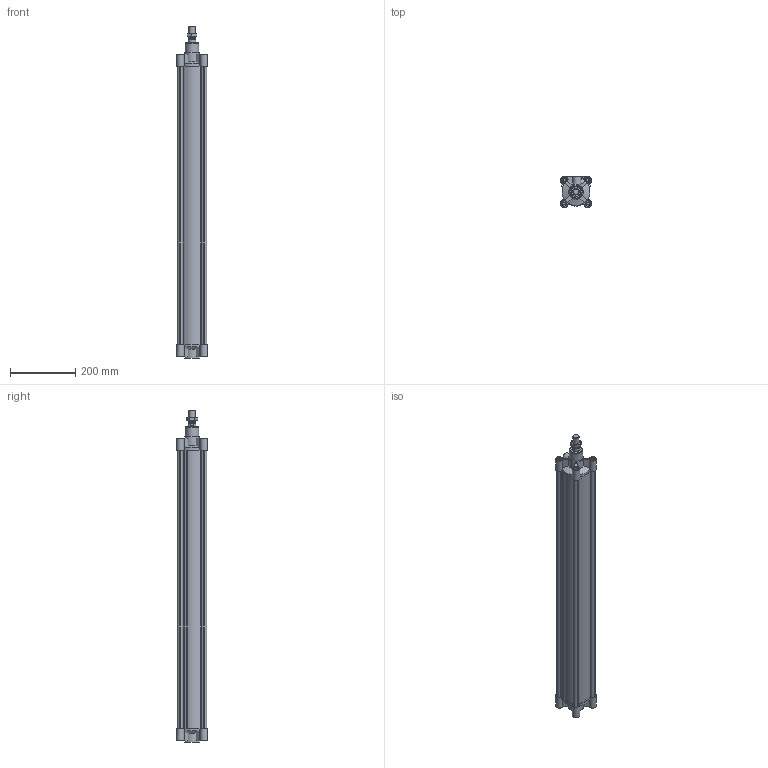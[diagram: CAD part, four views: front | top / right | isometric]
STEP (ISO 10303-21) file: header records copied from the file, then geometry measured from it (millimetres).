
FILE_DESCRIPTION((''),'2;1');
FILE_NAME('I:\Area Tecnica\Disegni\VARIE-3D\Componenti\ECOLIGHT\139#.##_0000_01\stp\139#_80_0800_01.iam.stp','2012-01-28T08:03:34',(''),(''),'Autodesk Inventor 2012','Autodesk Inventor 2012','');
FILE_SCHEMA(('AUTOMOTIVE_DESIGN { 1 0 10303 214 1 1 1 1 }'));
Length unit declared in the file: millimetre
Products named in the file (6): 139#_80_0800_01; CPL080_004-800; CPL080-001-01; CPL080-002-01; CPL_80_0800; 1320_80_18F
Assembly tree (5 placements, depth 2):
  139#_80_0800_01
    CPL080_004-800
    CPL080-001-01
    CPL080-002-01
    CPL_80_0800
    1320_80_18F
Bounding box: 95 x 95 x 1018.5 mm (x, y, z)
Volume: 2353277.2 mm3; surface area: 932845.8 mm2
Topology: 5 solids, 5 shells, 264 faces, 648 edges, 426 vertices
Faces by surface type: plane 154, cylinder 83, cone 26, torus 1
Full cylindrical faces by diameter (mm): 8.5 x8, 12 x2, 15.2 x2, 16 x8, 16.5 x8, 18 x1, 18.5 x1, 20 x1, 24.5 x1, 25 x2, 41 x1, 45 x2, 80 x4
Entity records: 7874 total; most frequent: CARTESIAN_POINT 1483, DIRECTION 1288, ORIENTED_EDGE 1186, EDGE_CURVE 593, AXIS2_PLACEMENT_3D 476, VERTEX_POINT 419, EDGE_LOOP 358, VECTOR 336
